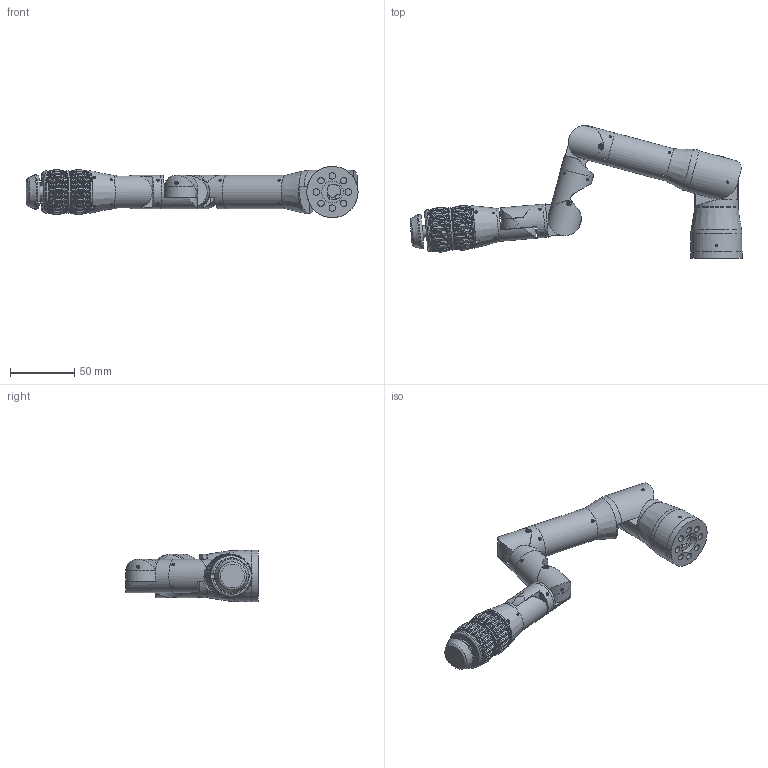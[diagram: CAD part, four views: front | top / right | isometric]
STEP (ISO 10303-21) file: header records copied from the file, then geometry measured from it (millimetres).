
FILE_DESCRIPTION(/* description */ ('Assembly Manipulator Master Control Arm USB V2','CAx-IF Rec.Pracs.---Representation and Presentation of Product Manufacturing Information (PMI)---4.0---2014-10-13'),/* implementation_level */ '2;1');
FILE_NAME(/* name */ '117012 v10.step',/* time_stamp */ '2024-12-18T11:53:11+01:00',/* author */ (''),/* organization */ (''),/* preprocessor_version */ 'ST-DEVELOPER v20',/* originating_system */ 'Autodesk Translation Framework v13.20.0.188',/* authorisation */ '');
FILE_SCHEMA (('AP242_MANAGED_MODEL_BASED_3D_ENGINEERING_MIM_LF { 1 0 10303 442 1 1 4 }'));
Length unit declared in the file: millimetre
Products named in the file (23): 117012; 117462; 117273; 117013; 117016; 117025; 117017; 116997; 116996; 117148; 117149; 119113; 106975; 117009; 117274; 117350; 115514; 117665; 117023; 117538; 119189; 117022; 117021
Assembly tree (62 placements, depth 2):
  117012
    117462
    117273
    117013
    117016
    116997  x2
    117025
    117017
    116996  x2
    117148
    117149
    119113
    106975  x2
    117009  x3
    117274  x3
    117023  x32
    117350
    115514
    117665  x3
    117538
    119189
    117022
    117021
Bounding box: 259.15 x 103.61 x 40 mm (x, y, z)
Volume: 124594 mm3; surface area: 97433.8 mm2
Topology: 62 solids, 62 shells, 2205 faces, 5943 edges, 4018 vertices
Faces by surface type: cylinder 922, plane 916, bspline 211, cone 143, torus 12, sphere 1
Full cylindrical faces by diameter (mm): 1.3 x1, 1.48 x69, 1.6 x21, 1.65 x4, 2 x73, 2.05 x32, 2.1 x4, 2.2 x1, 2.5 x76, 2.529 x1, 3 x1, 3.2 x1, 3.8 x7, 4.299 x1, 5 x8, 6 x1, 6.3 x2, 7 x1, 8.1 x2, 9 x1, 11 x1, 14.9 x3, 16.5 x3, 17 x1, 19.9 x1, 21 x3, 22 x1, 23 x2, 24.8 x1, 24.9 x1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
Entity records: 54538 total; most frequent: CARTESIAN_POINT 21046, ORIENTED_EDGE 6990, DIRECTION 6599, EDGE_CURVE 3495, AXIS2_PLACEMENT_3D 2540, VERTEX_POINT 2363, LINE 1519, VECTOR 1519
